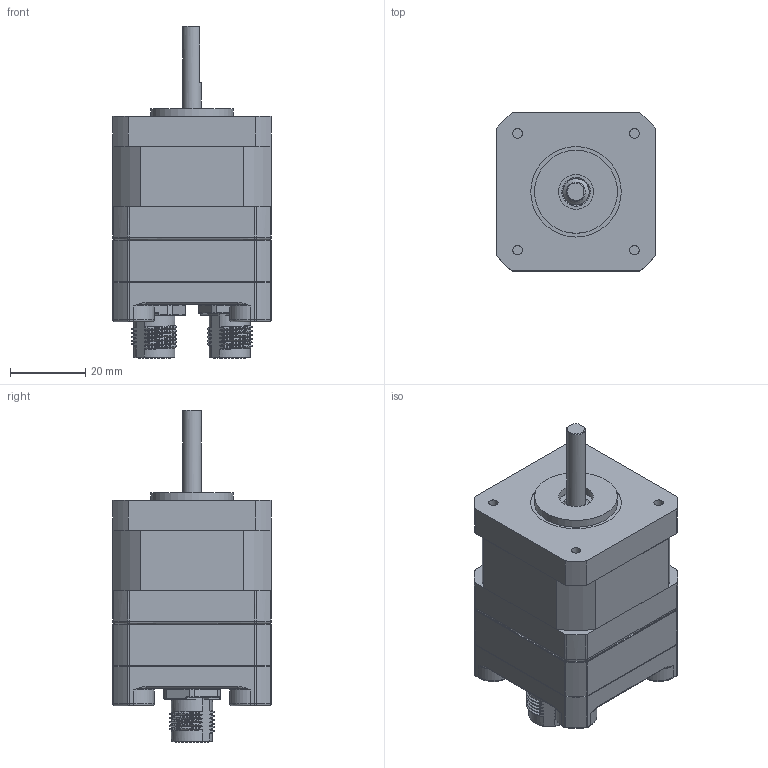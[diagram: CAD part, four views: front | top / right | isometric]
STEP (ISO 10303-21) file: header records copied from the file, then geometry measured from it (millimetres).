
FILE_DESCRIPTION (( 'STEP AP214' ), '1' );
FILE_NAME ('M42SH33 BAO.STEP', '2021-11-29T16:21:14', ( '' ), ( '' ), 'SwSTEP 2.0', 'SolidWorks 2019', '' );
FILE_SCHEMA (( 'AUTOMOTIVE_DESIGN' ));
Length unit declared in the file: millimetre
Products named in the file (1): M42SH33 BAO
Bounding box: 42 x 42 x 88.1 mm (x, y, z)
Volume: 45709.2 mm3; surface area: 46545.7 mm2
Topology: 48 solids, 48 shells, 3323 faces, 8406 edges, 5331 vertices
Faces by surface type: plane 1307, bspline 837, cylinder 698, torus 331, cone 112, sphere 38
Full cylindrical faces by diameter (mm): 0.217 x1, 0.28 x1, 0.75 x2, 0.8 x16, 0.85 x1, 1 x10, 1.3 x1, 1.9 x3, 2 x4, 2.5 x8, 3 x4, 3.1 x4, 3.2 x8, 3.4 x4, 3.8 x4, 4.8 x4, 5 x7, 5.5 x4, 5.6 x4, 6 x5, 7 x2, 7.3 x4, 8 x4, 8.3 x2, 8.4 x3, 8.6 x1, 8.7 x4, 9.25 x1, 9.3 x4, 9.4 x2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
Entity records: 201459 total; most frequent: CARTESIAN_POINT 92802, ORIENTED_EDGE 15596, DIRECTION 12829, EDGE_CURVE 7798, VERTEX_POINT 5140, AXIS2_PLACEMENT_3D 4560, EDGE_LOOP 3968, VECTOR 3709
